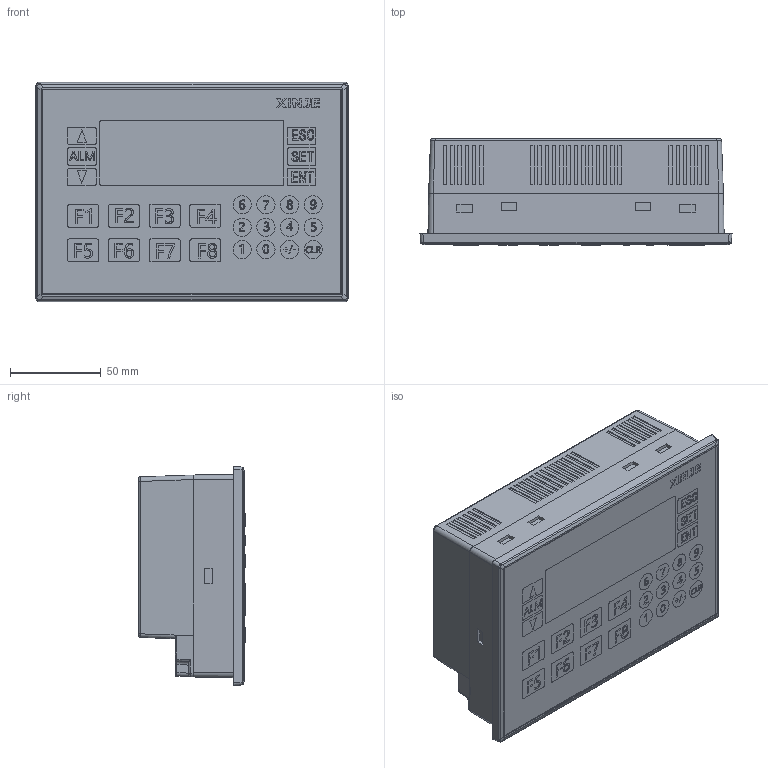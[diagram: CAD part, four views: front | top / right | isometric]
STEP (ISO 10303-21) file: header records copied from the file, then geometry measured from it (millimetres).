
FILE_DESCRIPTION(/* description */ (''),/* implementation_level */ '2;1');
FILE_NAME(/* name */ 'OP330',/* time_stamp */ '2023-04-26T10:34:36+08:00',/* author */ (''),/* organization */ (''),/* preprocessor_version */ 'ST-DEVELOPER v16.5',/* originating_system */ '',/* authorisation */ '');
FILE_SCHEMA (('CONFIG_CONTROL_DESIGN'));
Length unit declared in the file: millimetre
Products named in the file (1): Document
Bounding box: 171.5 x 58.6 x 120.5 mm (x, y, z)
Volume: 901657.7 mm3; surface area: 110655.6 mm2
Topology: 1 solids, 80 shells, 1006 faces, 2935 edges, 2078 vertices
Faces by surface type: plane 797, bspline 113, cylinder 96
Entity records: 33694 total; most frequent: CARTESIAN_POINT 14615, ORIENTED_EDGE 5338, EDGE_CURVE 2926, B_SPLINE_CURVE_WITH_KNOTS 2555, VERTEX_POINT 2078, EDGE_LOOP 1109, ADVANCED_FACE 1006, FACE_OUTER_BOUND 1006
